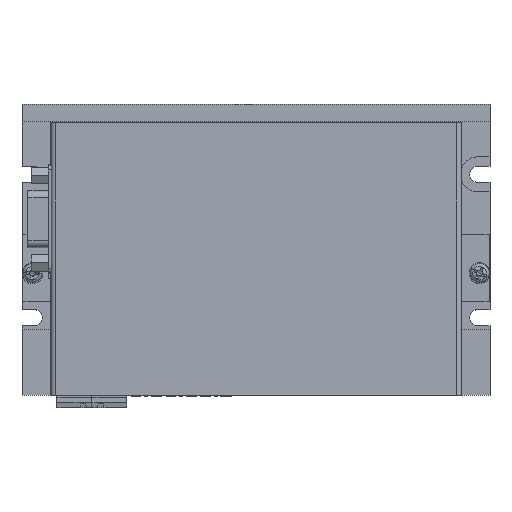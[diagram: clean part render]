
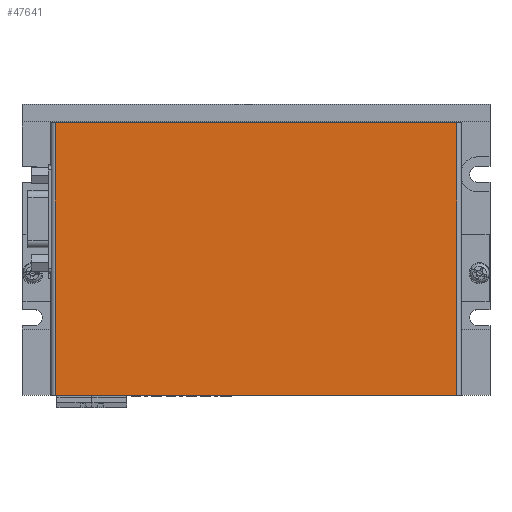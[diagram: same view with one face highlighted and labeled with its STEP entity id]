
A CAD part, top view. The second image highlights one B-rep face of the part: STEP entity #47641.
In plain terms, the highlighted planar face has unit normal (0, 0, 1).
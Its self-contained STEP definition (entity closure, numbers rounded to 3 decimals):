
#240 = FACE_OUTER_BOUND ( 'NONE', #11512, .T. ) ;
#1133 = VERTEX_POINT ( 'NONE', #6961 ) ;
#4383 = CARTESIAN_POINT ( 'NONE',  ( -116.3, 0., 0. ) ) ;
#6961 = CARTESIAN_POINT ( 'NONE',  ( -1.2, 0., 0. ) ) ;
#8612 = DIRECTION ( 'NONE',  ( -1., 0., 0. ) ) ;
#11512 = EDGE_LOOP ( 'NONE', ( #29495, #11931, #44526, #39309 ) ) ;
#11931 = ORIENTED_EDGE ( 'NONE', *, *, #57645, .T. ) ;
#14168 = DIRECTION ( 'NONE',  ( 0., -1., 0. ) ) ;
#15794 = CARTESIAN_POINT ( 'NONE',  ( -116.3, -78., 0. ) ) ;
#19650 = LINE ( 'NONE', #43632, #34614 ) ;
#20280 = PLANE ( 'NONE',  #40156 ) ;
#21539 = VECTOR ( 'NONE', #35675, 1000. ) ;
#21783 = EDGE_CURVE ( 'NONE', #1133, #22504, #19650, .T. ) ;
#22504 = VERTEX_POINT ( 'NONE', #60308 ) ;
#25090 = DIRECTION ( 'NONE',  ( -1., 0., 0. ) ) ;
#25347 = DIRECTION ( 'NONE',  ( 0., 0., 1. ) ) ;
#25552 = VECTOR ( 'NONE', #25090, 1000. ) ;
#27142 = LINE ( 'NONE', #40252, #25552 ) ;
#29495 = ORIENTED_EDGE ( 'NONE', *, *, #34558, .F. ) ;
#32557 = VERTEX_POINT ( 'NONE', #15794 ) ;
#34558 = EDGE_CURVE ( 'NONE', #40395, #32557, #27142, .T. ) ;
#34614 = VECTOR ( 'NONE', #8612, 1000. ) ;
#35675 = DIRECTION ( 'NONE',  ( 0., 1., 0. ) ) ;
#35993 = LINE ( 'NONE', #4383, #59394 ) ;
#39309 = ORIENTED_EDGE ( 'NONE', *, *, #55697, .T. ) ;
#40156 = AXIS2_PLACEMENT_3D ( 'NONE', #40265, #25347, #60305 ) ;
#40252 = CARTESIAN_POINT ( 'NONE',  ( 0., -78., 0. ) ) ;
#40265 = CARTESIAN_POINT ( 'NONE',  ( 0., 0., 0. ) ) ;
#40395 = VERTEX_POINT ( 'NONE', #51674 ) ;
#40682 = CARTESIAN_POINT ( 'NONE',  ( -1.2, 0., 0. ) ) ;
#43632 = CARTESIAN_POINT ( 'NONE',  ( 0., 0., 0. ) ) ;
#44526 = ORIENTED_EDGE ( 'NONE', *, *, #21783, .T. ) ;
#47641 = ADVANCED_FACE ( 'NONE', ( #240 ), #20280, .T. ) ;
#51345 = LINE ( 'NONE', #40682, #21539 ) ;
#51674 = CARTESIAN_POINT ( 'NONE',  ( -1.2, -78., 0. ) ) ;
#55697 = EDGE_CURVE ( 'NONE', #22504, #32557, #35993, .T. ) ;
#57645 = EDGE_CURVE ( 'NONE', #40395, #1133, #51345, .T. ) ;
#59394 = VECTOR ( 'NONE', #14168, 1000. ) ;
#60305 = DIRECTION ( 'NONE',  ( 1., 0., 0. ) ) ;
#60308 = CARTESIAN_POINT ( 'NONE',  ( -116.3, 0., 0. ) ) ;
